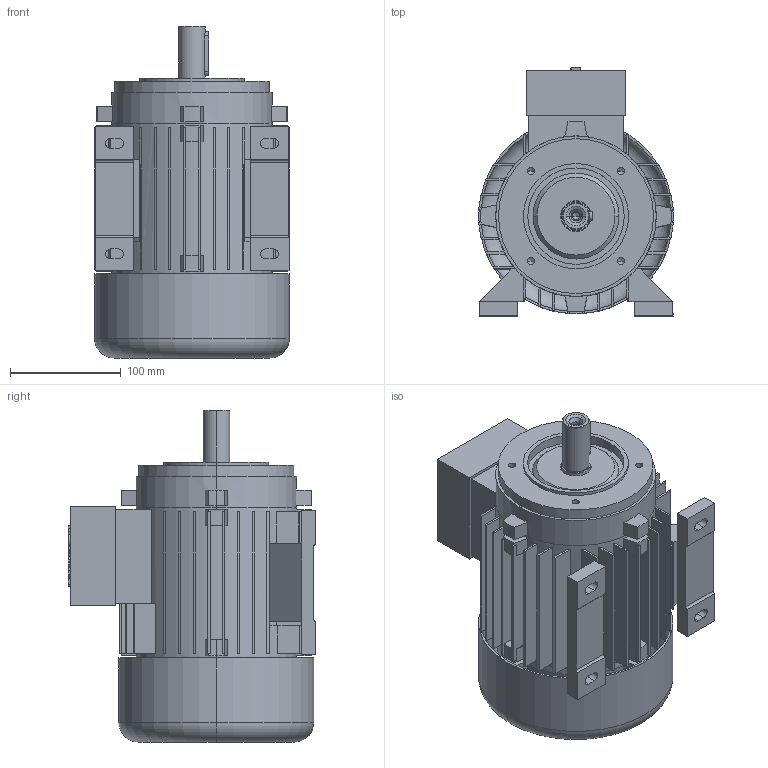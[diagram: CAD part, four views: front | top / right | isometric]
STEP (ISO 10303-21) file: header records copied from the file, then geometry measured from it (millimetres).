
FILE_DESCRIPTION (( 'STEP AP214' ), '1' );
FILE_NAME ('20.18271-F 5AZ 90S B34 small STANDK.STEP', '2018-07-16T11:26:41', ( '' ), ( '' ), 'SwSTEP 2.0', 'SolidWorks 2018', '' );
FILE_SCHEMA (( 'AUTOMOTIVE_DESIGN' ));
Length unit declared in the file: millimetre
Products named in the file (1): 20.18271-F 5AZ 90S B34 small STANDK
Bounding box: 176 x 224 x 300 mm (x, y, z)
Volume: 1918679 mm3; surface area: 604333.2 mm2
Topology: 9 solids, 9 shells, 526 faces, 1347 edges, 880 vertices
Faces by surface type: plane 350, cylinder 137, cone 26, bspline 9, torus 4
Entity records: 16116 total; most frequent: CARTESIAN_POINT 2953, DIRECTION 2761, ORIENTED_EDGE 2674, EDGE_CURVE 1337, AXIS2_PLACEMENT_3D 936, LINE 889, VECTOR 889, VERTEX_POINT 880
